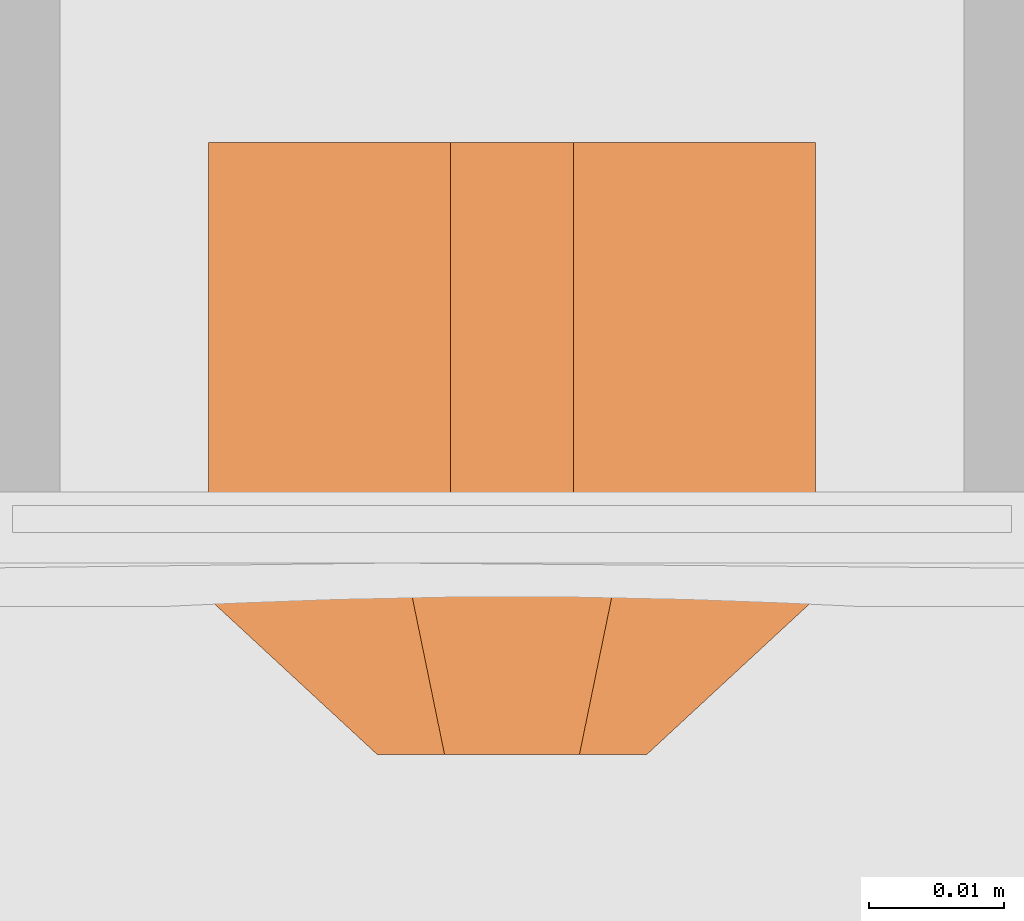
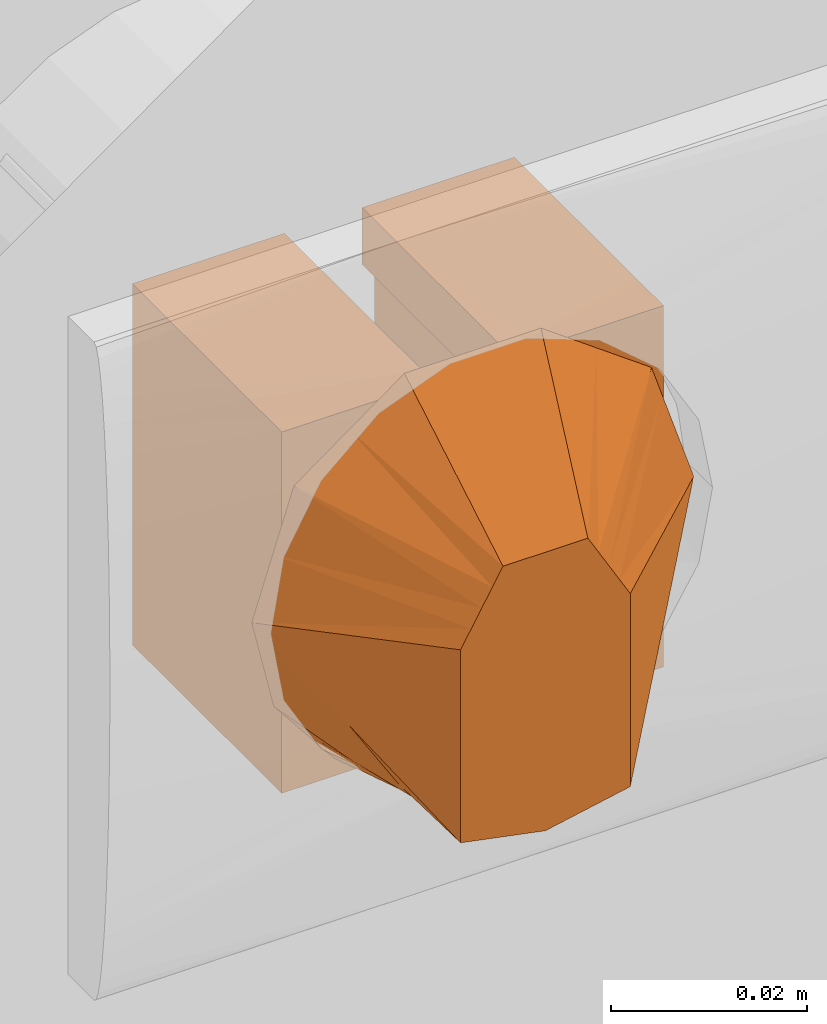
# One storey, part 30 of 30: 1 proxy.
"""IFC2X3 building model written with IfcOpenShell, lengths in metres."""

from ifc_helpers import new_model, entity, si_unit, converted_unit, derived_unit, direction, frame, origin, place, context, subcontext, project, spatial, faceted_brep, source, transform, mapped, material, material_list, type_object, type_shapes, element, save


model = new_model("IFC2X3")

# Units and contexts
model_context = context("Model", 3, precision=1e-05, world=origin(), true_north=direction((6.123031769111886e-17, 1.0)))
body_context = subcontext(model_context, "Body", "Model", "MODEL_VIEW")
ifc_project = project(units=[si_unit("LENGTHUNIT", "METRE"), si_unit("AREAUNIT", "SQUARE_METRE"), si_unit("VOLUMEUNIT", "CUBIC_METRE"), converted_unit("PLANEANGLEUNIT", "DEGREE", entity("IfcPlaneAngleMeasure", 0.017453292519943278), si_unit("PLANEANGLEUNIT", "RADIAN"), dimensions=[0, 0, 0, 0, 0, 0, 0]), si_unit("MASSUNIT", "GRAM", prefix="KILO"), derived_unit("MASSDENSITYUNIT", [(si_unit("MASSUNIT", "GRAM", prefix="KILO"), 1), (si_unit("LENGTHUNIT", "METRE"), -3)]), derived_unit("IONCONCENTRATIONUNIT", [(si_unit("MASSUNIT", "GRAM", prefix="KILO"), 1), (si_unit("LENGTHUNIT", "METRE"), -3)]), derived_unit("MOMENTOFINERTIAUNIT", [(si_unit("LENGTHUNIT", "METRE"), 4)]), si_unit("TIMEUNIT", "SECOND"), si_unit("FREQUENCYUNIT", "HERTZ"), si_unit("THERMODYNAMICTEMPERATUREUNIT", "DEGREE_CELSIUS"), derived_unit("THERMALTRANSMITTANCEUNIT", [(si_unit("MASSUNIT", "GRAM", prefix="KILO"), 1), (si_unit("THERMODYNAMICTEMPERATUREUNIT", "KELVIN"), -1), (si_unit("TIMEUNIT", "SECOND"), -3)]), derived_unit("THERMALCONDUCTANCEUNIT", [(si_unit("MASSUNIT", "GRAM", prefix="KILO"), 1), (si_unit("THERMODYNAMICTEMPERATUREUNIT", "KELVIN"), -1), (si_unit("TIMEUNIT", "SECOND"), -3), (si_unit("LENGTHUNIT", "METRE"), 1)]), derived_unit("VOLUMETRICFLOWRATEUNIT", [(si_unit("LENGTHUNIT", "METRE", prefix="DECI"), 3), (si_unit("TIMEUNIT", "SECOND"), -1)]), derived_unit("MASSFLOWRATEUNIT", [(si_unit("MASSUNIT", "GRAM", prefix="KILO"), 1), (si_unit("TIMEUNIT", "SECOND"), -1)]), derived_unit("ROTATIONALFREQUENCYUNIT", [(si_unit("TIMEUNIT", "SECOND"), -1)]), si_unit("ELECTRICCURRENTUNIT", "AMPERE"), si_unit("ELECTRICVOLTAGEUNIT", "VOLT"), si_unit("POWERUNIT", "WATT"), si_unit("FORCEUNIT", "NEWTON", prefix="KILO"), si_unit("ILLUMINANCEUNIT", "LUX"), si_unit("LUMINOUSFLUXUNIT", "LUMEN"), si_unit("LUMINOUSINTENSITYUNIT", "CANDELA"), si_unit("ENERGYUNIT", "JOULE"), derived_unit("USERDEFINED", [(si_unit("MASSUNIT", "GRAM", prefix="KILO"), -1), (si_unit("LENGTHUNIT", "METRE"), -2), (si_unit("TIMEUNIT", "SECOND"), 3), (si_unit("LUMINOUSFLUXUNIT", "LUMEN"), 1)]), derived_unit("USERDEFINED", [(si_unit("MASSUNIT", "GRAM", prefix="KILO"), 1), (si_unit("TIMEUNIT", "SECOND"), -3), (si_unit("LENGTHUNIT", "METRE"), 3), (si_unit("ELECTRICCURRENTUNIT", "AMPERE"), -2)]), derived_unit("SOUNDPOWERUNIT", [(si_unit("MASSUNIT", "GRAM", prefix="KILO"), 1), (si_unit("TIMEUNIT", "SECOND"), -3), (si_unit("LENGTHUNIT", "METRE"), 2)]), derived_unit("SOUNDPRESSUREUNIT", [(si_unit("MASSUNIT", "GRAM", prefix="KILO"), 1), (si_unit("LENGTHUNIT", "METRE"), -1), (si_unit("TIMEUNIT", "SECOND"), -2)]), derived_unit("LINEARVELOCITYUNIT", [(si_unit("LENGTHUNIT", "METRE"), 1), (si_unit("TIMEUNIT", "SECOND"), -1)]), si_unit("PRESSUREUNIT", "PASCAL"), derived_unit("USERDEFINED", [(si_unit("MASSUNIT", "GRAM", prefix="KILO"), 1), (si_unit("LENGTHUNIT", "METRE"), -2), (si_unit("TIMEUNIT", "SECOND"), -2)]), derived_unit("LINEARFORCEUNIT", [(si_unit("MASSUNIT", "GRAM", prefix="KILO"), 1), (si_unit("TIMEUNIT", "SECOND"), -2)]), derived_unit("PLANARFORCEUNIT", [(si_unit("MASSUNIT", "GRAM", prefix="KILO"), 1), (si_unit("LENGTHUNIT", "METRE"), -1), (si_unit("TIMEUNIT", "SECOND"), -2)]), derived_unit("SPECIFICHEATCAPACITYUNIT", [(si_unit("THERMODYNAMICTEMPERATUREUNIT", "KELVIN"), -1), (si_unit("LENGTHUNIT", "METRE"), 2), (si_unit("TIMEUNIT", "SECOND"), -2)]), derived_unit("HEATFLUXDENSITYUNIT", [(si_unit("MASSUNIT", "GRAM", prefix="KILO"), 1), (si_unit("TIMEUNIT", "SECOND"), -3)]), derived_unit("HEATINGVALUEUNIT", [(si_unit("LENGTHUNIT", "METRE"), 2), (si_unit("TIMEUNIT", "SECOND"), -2)]), derived_unit("VAPORPERMEABILITYUNIT", [(si_unit("LENGTHUNIT", "METRE"), -1), (si_unit("TIMEUNIT", "SECOND"), 1)]), derived_unit("DYNAMICVISCOSITYUNIT", [(si_unit("MASSUNIT", "GRAM", prefix="KILO"), 1), (si_unit("TIMEUNIT", "SECOND"), -1), (si_unit("LENGTHUNIT", "METRE"), -1)]), derived_unit("THERMALEXPANSIONCOEFFICIENTUNIT", [(si_unit("THERMODYNAMICTEMPERATUREUNIT", "KELVIN"), -1)]), derived_unit("MODULUSOFELASTICITYUNIT", [(si_unit("MASSUNIT", "GRAM", prefix="KILO"), 1), (si_unit("LENGTHUNIT", "METRE"), -1), (si_unit("TIMEUNIT", "SECOND"), -2)]), derived_unit("ISOTHERMALMOISTURECAPACITYUNIT", [(si_unit("MASSUNIT", "GRAM", prefix="KILO"), -1), (si_unit("LENGTHUNIT", "METRE"), 3)]), derived_unit("MOISTUREDIFFUSIVITYUNIT", [(si_unit("TIMEUNIT", "SECOND"), -1), (si_unit("LENGTHUNIT", "METRE"), 2)]), derived_unit("MASSPERLENGTHUNIT", [(si_unit("MASSUNIT", "GRAM", prefix="KILO"), 1), (si_unit("LENGTHUNIT", "METRE"), -1)]), derived_unit("THERMALRESISTANCEUNIT", [(si_unit("MASSUNIT", "GRAM", prefix="KILO"), -1), (si_unit("TIMEUNIT", "SECOND"), 3), (si_unit("THERMODYNAMICTEMPERATUREUNIT", "KELVIN"), 1)]), derived_unit("ACCELERATIONUNIT", [(si_unit("LENGTHUNIT", "METRE"), 1), (si_unit("TIMEUNIT", "SECOND"), -2)]), derived_unit("ANGULARVELOCITYUNIT", [(si_unit("TIMEUNIT", "SECOND"), -1), (si_unit("PLANEANGLEUNIT", "RADIAN"), 1)]), derived_unit("LINEARSTIFFNESSUNIT", [(si_unit("MASSUNIT", "GRAM", prefix="KILO"), 1), (si_unit("TIMEUNIT", "SECOND"), -2)]), derived_unit("WARPINGCONSTANTUNIT", [(si_unit("LENGTHUNIT", "METRE"), 6)]), derived_unit("LINEARMOMENTUNIT", [(si_unit("MASSUNIT", "GRAM", prefix="KILO"), 1), (si_unit("LENGTHUNIT", "METRE"), 1), (si_unit("TIMEUNIT", "SECOND"), -2)]), derived_unit("TORQUEUNIT", [(si_unit("MASSUNIT", "GRAM", prefix="KILO"), 1), (si_unit("LENGTHUNIT", "METRE"), 2), (si_unit("TIMEUNIT", "SECOND"), -2)])], contexts=[model_context])

# Site, building, storey
site_placement = place(None, origin())
site = spatial("IfcSite", under=ifc_project, at=site_placement, Name="Default", CompositionType="ELEMENT")
building_placement = place(site_placement, origin())
building = spatial("IfcBuilding", under=site, at=building_placement, CompositionType="ELEMENT")
storey_placement = place(building_placement, origin())
storey = spatial("IfcBuildingStorey", under=building, at=storey_placement, Name="Niveau 0", CompositionType="ELEMENT", Elevation=-1.949160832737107e-14)

# Proxy
ifc_material_1 = material(Name="Plastique, blanc opaque")
ifc_material_2 = material(Name="Plastique, noir opaque")
ifc_material_list = material_list([ifc_material_1, ifc_material_2])
building_element_proxy_type = type_object("IfcBuildingElementProxyType", Name="Legrand Sorties de câbles:Prise courant", PredefinedType="NOTDEFINED", material=ifc_material_list)
shared_shape = source(origin(), body_context, "Body", "Brep", [
    faceted_brep([(0.1312499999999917, 0.11993877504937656, -1.7674673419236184), (0.1324999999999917, 0.11993877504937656, -1.7696324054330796), (0.13374999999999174, 0.11993877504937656, -1.7717974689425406), (0.1349999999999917, 0.11993877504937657, -1.7739625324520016), (0.13499999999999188, 0.11993877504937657, -1.7980031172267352), (0.13257199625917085, 0.11993877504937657, -1.7984879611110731), (0.12999999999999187, 0.11993877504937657, -1.7990015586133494), (0.1274999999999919, 0.11993877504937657, -1.7995007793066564), (0.1262499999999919, 0.11993877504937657, -1.7997503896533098), (0.12499999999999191, 0.11993877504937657, -1.7999999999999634), (0.12374999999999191, 0.11993877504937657, -1.7997503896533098), (0.12249999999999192, 0.11993877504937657, -1.7995007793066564), (0.1199999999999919, 0.11993877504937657, -1.7990015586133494), (0.11742800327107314, 0.11993877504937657, -1.7984879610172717), (0.11499999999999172, 0.11993877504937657, -1.7980031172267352), (0.11499999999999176, 0.11993877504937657, -1.7739625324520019), (0.11624999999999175, 0.11993877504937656, -1.7717974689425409), (0.11749999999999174, 0.11993877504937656, -1.7696324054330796), (0.11874999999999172, 0.11993877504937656, -1.7674673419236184), (0.11999999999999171, 0.11993877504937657, -1.7653022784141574), (0.12249999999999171, 0.11993877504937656, -1.7653022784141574), (0.12499999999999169, 0.11993877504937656, -1.7653022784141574), (0.1274999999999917, 0.11993877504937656, -1.7653022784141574), (0.1299999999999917, 0.11993877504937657, -1.7653022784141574), (0.11899999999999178, 0.10509965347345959, -1.7736158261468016), (0.13100881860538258, 0.10509965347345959, -1.7736158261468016), (0.13100881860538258, 0.10509965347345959, -1.7992971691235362), (0.13543286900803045, 0.10509965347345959, -1.7971340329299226), (0.1413044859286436, 0.10509965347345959, -1.794263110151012), (0.14486650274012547, 0.10509965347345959, -1.7897929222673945), (0.14842851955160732, 0.10509965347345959, -1.7853227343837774), (0.1497329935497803, 0.10509965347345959, -1.7796426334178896), (0.15103746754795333, 0.10509965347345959, -1.7739625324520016), (0.14855111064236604, 0.10509965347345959, -1.7663103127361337), (0.14606475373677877, 0.10509965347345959, -1.7586580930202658), (0.13955538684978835, 0.10509965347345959, -1.7539287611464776), (0.13304601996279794, 0.10509965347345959, -1.7491994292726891), (0.12499999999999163, 0.10509965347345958, -1.7491994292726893), (0.11695398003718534, 0.10509965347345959, -1.7491994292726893), (0.11044461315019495, 0.10509965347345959, -1.7539287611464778), (0.1039352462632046, 0.10509965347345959, -1.7586580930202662), (0.10269206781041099, 0.10509965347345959, -1.7624842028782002), (0.10144888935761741, 0.10509965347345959, -1.7663103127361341), (0.09896253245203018, 0.10509965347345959, -1.7739625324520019), (0.1002698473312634, 0.10509965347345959, -1.7796484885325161), (0.10157716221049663, 0.10509965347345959, -1.7853344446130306), (0.10511994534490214, 0.10509965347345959, -1.7897855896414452), (0.10866272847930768, 0.10509965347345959, -1.7942367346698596), (0.11457764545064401, 0.10509965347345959, -1.7971334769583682), (0.11899999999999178, 0.10509965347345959, -1.7992992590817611), (0.11070364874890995, 0.1159634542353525, -1.79156277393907), (0.10640729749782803, 0.11198813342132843, -1.7851224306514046), (0.11073321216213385, 0.11467883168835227, -1.792373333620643), (0.13100881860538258, 0.1085342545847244, -1.7991906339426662), (0.1366473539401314, 0.11098839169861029, -1.7963444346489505), (0.11899999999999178, 0.10853425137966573, -1.7991930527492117), (0.1133638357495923, 0.11097206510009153, -1.7963554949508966), (0.11936587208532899, 0.11403102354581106, -1.7990939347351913), (0.11744997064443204, 0.11574866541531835, -1.7982196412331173), (0.1204105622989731, 0.11583271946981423, -1.7993660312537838), (0.1392664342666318, 0.11467932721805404, -1.7923735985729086), (0.1392963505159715, 0.11596345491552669, -1.7915627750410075), (0.1435927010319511, 0.11198813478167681, -1.7851224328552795), (0.10453255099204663, 0.1092614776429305, -1.785680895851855), (0.1325405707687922, 0.11575698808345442, -1.7982239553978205), (0.1306342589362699, 0.11403066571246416, -1.7990939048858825), (0.14256159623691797, 0.10975689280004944, -1.7908354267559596), (0.12200277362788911, 0.11716562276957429, -1.7997287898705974), (0.1280007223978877, 0.11716360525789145, -1.7997281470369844), (0.12958879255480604, 0.11583348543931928, -1.7993662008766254), (0.10742241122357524, 0.10974873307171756, -1.7908181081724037), (0.11296266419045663, 0.11447366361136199, -1.7951906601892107), (0.1239564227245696, 0.11787641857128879, -1.799967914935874), (0.13100881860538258, 0.11196786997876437, -1.7990560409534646), (0.12604238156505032, 0.11787662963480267, -1.7999679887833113), (0.14546434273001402, 0.10926461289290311, -1.7856834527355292), (0.13701167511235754, 0.11449847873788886, -1.795208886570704), (0.11899999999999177, 0.11196786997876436, -1.7990588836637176), (0.12075735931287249, 0.11621051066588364, -1.7736158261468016), (0.12199999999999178, 0.11716402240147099, -1.7736158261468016), (0.12344708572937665, 0.11776342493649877, -1.7736158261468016), (0.12499999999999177, 0.11796786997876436, -1.7736158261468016), (0.1265529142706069, 0.11776342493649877, -1.7736158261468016), (0.12799999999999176, 0.11716402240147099, -1.7736158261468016), (0.12924264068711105, 0.11621051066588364, -1.7736158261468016), (0.1301961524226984, 0.11496786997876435, -1.7736158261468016), (0.13079555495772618, 0.11352078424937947, -1.7736158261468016), (0.13100881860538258, 0.11196786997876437, -1.7736158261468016), (0.11899999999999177, 0.11196786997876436, -1.7736158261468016), (0.11920444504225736, 0.11352078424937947, -1.7736158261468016), (0.11980384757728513, 0.11496786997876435, -1.7736158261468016)], [[[0, 1, 2, 3, 4, 5, 6, 7, 8, 9, 10, 11, 12, 13, 14, 15, 16, 17, 18, 19, 20, 21, 22, 23]], [[24, 25, 26, 27, 28, 29, 30, 31, 32, 33, 34, 35, 36, 37, 38, 39, 40, 41, 42, 43, 44, 45, 46, 47, 48, 49]], [[15, 14, 50, 51, 43]], [[13, 52, 14]], [[27, 26, 53]], [[54, 27, 53]], [[55, 48, 56]], [[57, 58, 59]], [[60, 4, 61, 62]], [[43, 51, 63]], [[54, 28, 27]], [[64, 54, 65]], [[54, 66, 29]], [[59, 11, 67]], [[68, 7, 69]], [[64, 65, 69]], [[56, 46, 70]], [[12, 58, 71]], [[67, 10, 72]], [[73, 65, 54]], [[68, 8, 7]], [[55, 49, 48]], [[52, 63, 51]], [[53, 73, 54]], [[48, 47, 56]], [[74, 9, 8]], [[60, 75, 66]], [[13, 71, 52]], [[60, 76, 5]], [[45, 63, 70]], [[55, 56, 77]], [[5, 76, 6]], [[12, 71, 13]], [[67, 11, 10]], [[9, 74, 72]], [[8, 68, 74]], [[72, 10, 9]], [[57, 77, 56]], [[11, 59, 58]], [[54, 64, 76]], [[57, 56, 58]], [[6, 64, 7]], [[76, 60, 66]], [[75, 60, 62]], [[75, 32, 31, 30]], [[32, 75, 62]], [[52, 51, 50, 14]], [[75, 30, 66]], [[29, 28, 54]], [[54, 76, 66]], [[66, 30, 29]], [[70, 63, 52]], [[70, 52, 71]], [[63, 45, 44, 43]], [[71, 56, 70]], [[7, 64, 69]], [[46, 56, 47]], [[46, 45, 70]], [[76, 64, 6]], [[71, 58, 56]], [[11, 58, 12]], [[4, 60, 5]], [[3, 32, 62, 61, 4]], [[35, 0, 23]], [[34, 0, 35]], [[1, 34, 33]], [[34, 1, 0]], [[33, 2, 1]], [[39, 18, 40]], [[36, 23, 22, 21, 20, 19, 38, 37]], [[19, 39, 38]], [[43, 16, 15]], [[3, 2, 32]], [[18, 39, 19]], [[16, 43, 42, 41]], [[32, 2, 33]], [[17, 41, 40]], [[23, 36, 35]], [[16, 41, 17]], [[17, 40, 18]], [[78, 79, 80, 81, 82, 83, 84, 85, 86, 87, 25, 24, 88, 89, 90]], [[86, 65, 73]], [[68, 69, 83]], [[74, 68, 82]], [[85, 69, 65]], [[86, 85, 65]], [[73, 87, 86]], [[84, 83, 69]], [[69, 85, 84]], [[83, 82, 68]], [[82, 81, 74]], [[72, 80, 67]], [[67, 79, 59]], [[77, 57, 89]], [[90, 57, 59]], [[88, 77, 89]], [[80, 79, 67]], [[72, 81, 80]], [[78, 90, 59]], [[59, 79, 78]], [[90, 89, 57]], [[74, 81, 72]], [[55, 77, 88, 24, 49]], [[53, 26, 25, 87, 73]]]),
    faceted_brep([(0.1295689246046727, 0.0746, -1.751462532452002), (0.1295689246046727, 0.0746, -1.7585551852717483), (0.13100881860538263, 0.0746, -1.7599950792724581), (0.13100881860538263, 0.0746, -1.7832874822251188), (0.12499999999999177, 0.0746, -1.7832874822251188), (0.11899118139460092, 0.0746, -1.7832874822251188), (0.11899118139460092, 0.0746, -1.7599950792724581), (0.12043107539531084, 0.0746, -1.7585551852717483), (0.12043107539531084, 0.0746, -1.751462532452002), (0.10249999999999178, 0.0746, -1.751462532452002), (0.10249999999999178, 0.0746, -1.796462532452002), (0.14749999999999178, 0.0746, -1.796462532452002), (0.14749999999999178, 0.0746, -1.751462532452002), (0.1295689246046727, 0.10509965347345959, -1.751462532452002), (0.14749999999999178, 0.10509965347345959, -1.751462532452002), (0.14749999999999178, 0.10509965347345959, -1.796462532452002), (0.10249999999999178, 0.10509965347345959, -1.796462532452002), (0.10249999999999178, 0.10509965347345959, -1.751462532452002), (0.12043107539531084, 0.10509965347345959, -1.751462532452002), (0.12043107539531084, 0.10509965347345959, -1.7585551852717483), (0.11899118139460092, 0.10509965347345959, -1.7599950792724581), (0.11899118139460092, 0.10509965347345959, -1.7832874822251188), (0.12499999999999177, 0.10509965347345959, -1.7832874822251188), (0.13100881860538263, 0.10509965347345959, -1.7832874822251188), (0.13100881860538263, 0.10509965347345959, -1.7599950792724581), (0.1295689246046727, 0.10509965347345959, -1.7585551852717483)], [[[0, 1, 2, 3, 4, 5, 6, 7, 8, 9, 10, 11, 12]], [[13, 14, 15, 16, 17, 18, 19, 20, 21, 22, 23, 24, 25]], [[10, 9, 17, 16]], [[11, 10, 16, 15]], [[12, 11, 15, 14]], [[0, 12, 14, 13]], [[1, 0, 13, 25]], [[2, 1, 25, 24]], [[3, 2, 24, 23]], [[4, 3, 23, 22]], [[5, 4, 22, 21]], [[6, 5, 21, 20]], [[7, 6, 20, 19]], [[8, 7, 19, 18]], [[9, 8, 18, 17]]]),
])
type_shapes(building_element_proxy_type, [shared_shape])
proxy_placement = place(storey_placement, frame((-20.357065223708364, 2.969026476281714, 3.823962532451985), z_axis=(0.0, 0.0, 1.0), x_axis=(-1.0, 0.0, 0.0)))
element("IfcBuildingElementProxy", 1, at=proxy_placement, inside=storey, type_object=building_element_proxy_type, material=ifc_material_list, Name="Legrand Sorties de câbles:Prise courant", ObjectType="Legrand Sorties de câbles:Prise courant", context=body_context, shape_type="MappedRepresentation", body=[
    mapped(shared_shape, transform((0.0, 0.0, 0.0), scale=1.0)),
])

save(model, "model.ifc")
